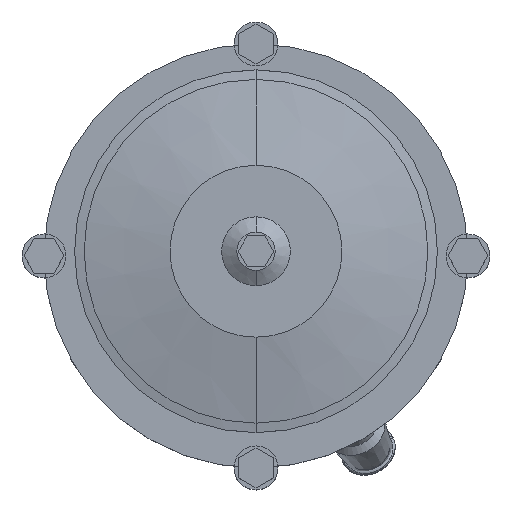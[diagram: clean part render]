
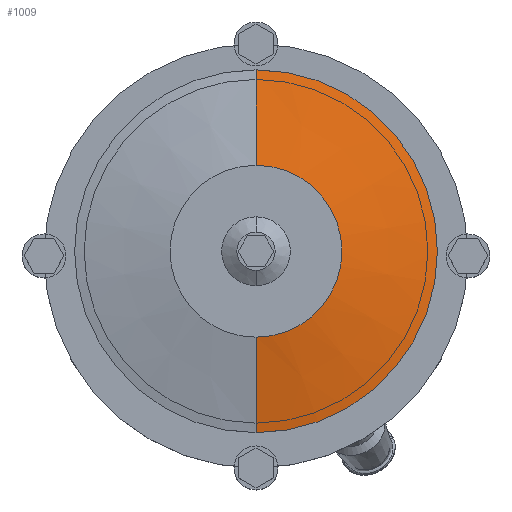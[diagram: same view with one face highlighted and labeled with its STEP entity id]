
A CAD part, top view. The second image highlights one B-rep face of the part: STEP entity #1009.
In plain terms, the highlighted conical face has half-angle 78.69 degrees and reference radius 70 mm.
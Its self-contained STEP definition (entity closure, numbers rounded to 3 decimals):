
#1009=ADVANCED_FACE('',(#1813),#1814,.T.);
#1813=FACE_OUTER_BOUND('',#2673,.T.);
#1814=CONICAL_SURFACE('',#2674,70.0,1.373);
#2673=EDGE_LOOP('',(#4183,#4184,#4185,#4186));
#2674=AXIS2_PLACEMENT_3D('',#4187,#4188,#4189);
#4183=ORIENTED_EDGE('',*,*,#4638,.F.);
#4184=ORIENTED_EDGE('',*,*,#4574,.F.);
#4185=ORIENTED_EDGE('',*,*,#4639,.F.);
#4186=ORIENTED_EDGE('',*,*,#4450,.F.);
#4187=CARTESIAN_POINT('',(0.0,0.,1535.0));
#4188=DIRECTION('',(-0.0,0.,-1.0));
#4189=DIRECTION('',(0.0,-1.0,0.));
#4450=EDGE_CURVE('',#5125,#5126,#5127,.T.);
#4574=EDGE_CURVE('',#5319,#5318,#5321,.T.);
#4638=EDGE_CURVE('',#5318,#5125,#5427,.T.);
#4639=EDGE_CURVE('',#5126,#5319,#5428,.T.);
#5125=VERTEX_POINT('',#6040);
#5126=VERTEX_POINT('',#6041);
#5127=CIRCLE('',#6042,45.0);
#5318=VERTEX_POINT('',#6286);
#5319=VERTEX_POINT('',#6287);
#5321=CIRCLE('',#6289,95.0);
#5427=LINE('',#6415,#6416);
#5428=LINE('',#6417,#6418);
#6040=CARTESIAN_POINT('',(0.0,-45.0,1540.0));
#6041=CARTESIAN_POINT('',(0.,45.0,1540.0));
#6042=AXIS2_PLACEMENT_3D('',#7136,#7137,#7138);
#6286=CARTESIAN_POINT('',(0.0,-95.0,1530.0));
#6287=CARTESIAN_POINT('',(0.,95.0,1530.0));
#6289=AXIS2_PLACEMENT_3D('',#7294,#7295,#7296);
#6415=CARTESIAN_POINT('',(0.,-70.0,1535.0));
#6416=VECTOR('',#7401,1.0);
#6417=CARTESIAN_POINT('',(0.,70.0,1535.0));
#6418=VECTOR('',#7402,1.0);
#7136=CARTESIAN_POINT('',(0.0,0.,1540.0));
#7137=DIRECTION('',(0.0,0.,1.0));
#7138=DIRECTION('',(0.0,-1.0,0.));
#7294=CARTESIAN_POINT('',(0.0,0.0,1530.0));
#7295=DIRECTION('',(0.0,0.,-1.0));
#7296=DIRECTION('',(0.0,-1.0,0.));
#7401=DIRECTION('',(0.,0.981,0.196));
#7402=DIRECTION('',(0.,0.981,-0.196));
